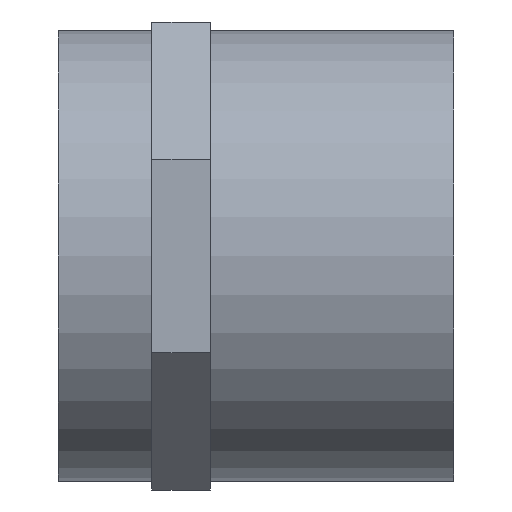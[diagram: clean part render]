
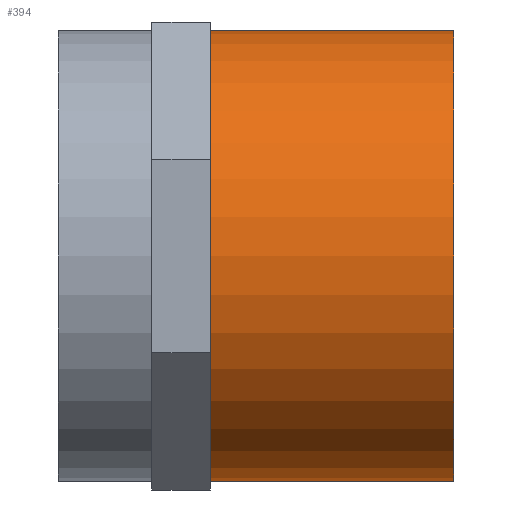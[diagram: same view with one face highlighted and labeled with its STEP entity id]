
A CAD part, left-side view. The second image highlights one B-rep face of the part: STEP entity #394.
In plain terms, the highlighted cylindrical face has radius 53 mm (diameter 106 mm), a full revolution.
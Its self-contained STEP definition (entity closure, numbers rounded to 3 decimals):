
#18=CYLINDRICAL_SURFACE('',#428,53.);
#28=FACE_BOUND('',#113,.T.);
#48=CIRCLE('',#412,53.);
#56=CIRCLE('',#427,53.);
#79=FACE_OUTER_BOUND('',#112,.T.);
#112=EDGE_LOOP('',(#356));
#113=EDGE_LOOP('',(#357));
#209=VERTEX_POINT('',#5885);
#216=VERTEX_POINT('',#5907);
#258=EDGE_CURVE('',#209,#209,#48,.T.);
#266=EDGE_CURVE('',#216,#216,#56,.T.);
#356=ORIENTED_EDGE('',*,*,#258,.T.);
#357=ORIENTED_EDGE('',*,*,#266,.T.);
#394=ADVANCED_FACE('',(#79,#28),#18,.T.);
#412=AXIS2_PLACEMENT_3D('',#5886,#486,#487);
#427=AXIS2_PLACEMENT_3D('',#5908,#516,#517);
#428=AXIS2_PLACEMENT_3D('',#5909,#518,#519);
#486=DIRECTION('center_axis',(0.,-1.,0.));
#487=DIRECTION('ref_axis',(-1.,0.,0.));
#516=DIRECTION('center_axis',(0.,1.,0.));
#517=DIRECTION('ref_axis',(1.,0.,0.));
#518=DIRECTION('center_axis',(0.,1.,0.));
#519=DIRECTION('ref_axis',(-1.,0.,0.));
#5885=CARTESIAN_POINT('',(53.,57.2,0.));
#5886=CARTESIAN_POINT('Origin',(0.,57.2,0.));
#5907=CARTESIAN_POINT('',(-53.,0.,0.));
#5908=CARTESIAN_POINT('Origin',(0.,0.,0.));
#5909=CARTESIAN_POINT('Origin',(0.,46.5,0.));
